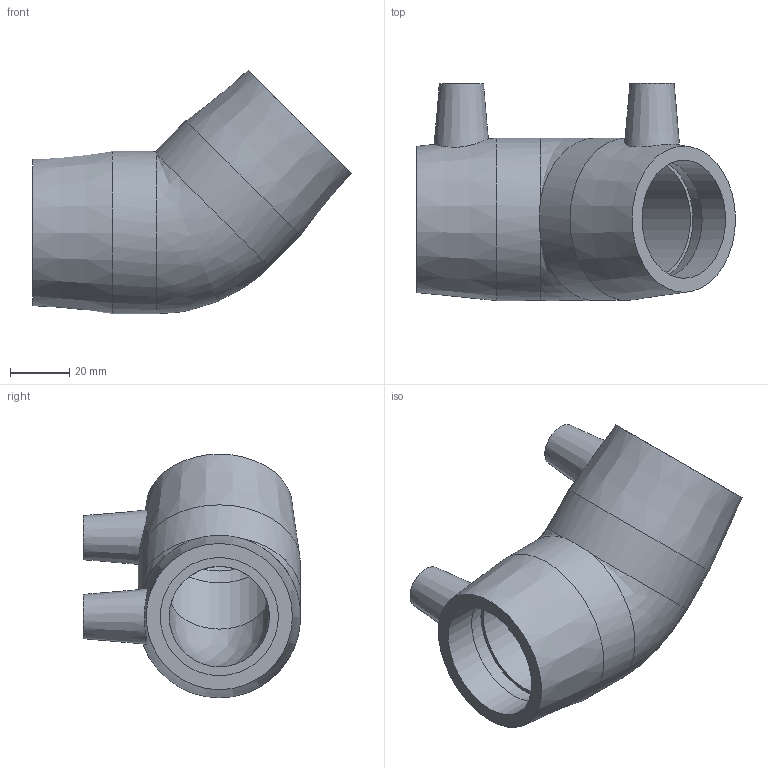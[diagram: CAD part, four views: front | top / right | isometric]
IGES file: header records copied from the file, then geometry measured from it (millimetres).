
Global section: file name: 490604040.ipt; native system: Autodesk Inventor 2015; preprocessor: unknown; author: KIM; date: 20171106.093649; units: millimetre
Bounding box: 108 x 73.5 x 82.49 mm (x, y, z)
Volume: 119006.3 mm3; surface area: 36043.6 mm2
Topology: 1 solids, 1 shells, 30 faces, 68 edges, 46 vertices
Faces by surface type: plane 12, revolution 9, cylinder 4, cone 4, bspline 1
Full cylindrical faces by diameter (mm): 4 x2, 55 x2
